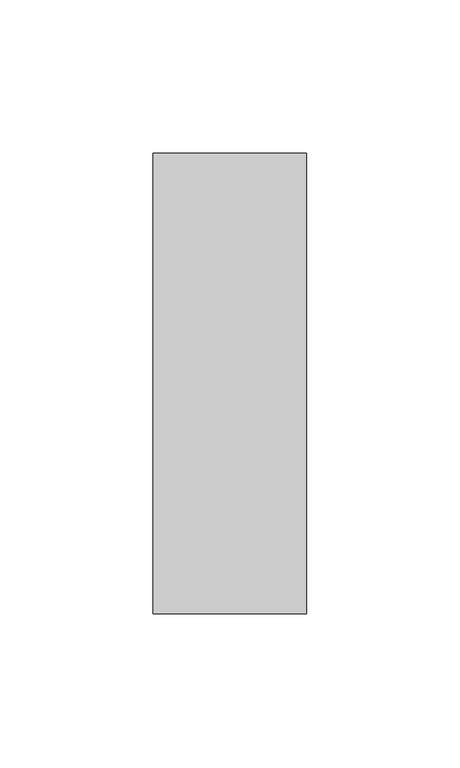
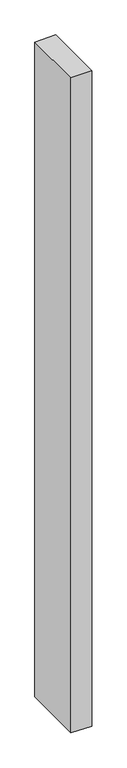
"""IFC4 building model written with IfcOpenShell, lengths in millimetres: member geometry, Прямоугольный импост : 50 x 150 мм."""

from ifc_helpers import new_model, si_unit, origin, place, context, project, spatial, faceted_brep, source, transform, mapped, element, save


def member_8134df89(model_context):
    return source(origin(), model_context, "Body", "Brep", [
        faceted_brep([(-25.0, 75.0, -0.1329139), (25.0, 75.0, 0.5187577), (25.0, 75.0, -1666.5561926), (-25.0, 75.0, -1665.9392816), (-25.0, -75.0, -0.5187577), (-25.0, -75.0, -1666.6742464), (25.0, -75.0, 0.1329139), (25.0, -75.0, -1667.2911575)], [[[0, 1, 2, 3]], [[4, 0, 3, 5]], [[6, 4, 5, 7]], [[1, 6, 7, 2]], [[1, 0, 4, 6]], [[2, 7, 5, 3]]]),
    ])


if __name__ == "__main__":
    model = new_model("IFC4")
    model_context = context("Model", 3, world=origin())
    ifc_project = project(units=[si_unit("LENGTHUNIT", "METRE", prefix="MILLI")], contexts=[model_context])
    site = spatial("IfcSite", under=ifc_project)
    building = spatial("IfcBuilding", under=site)
    placement = place(None, origin())
    member_shape = member_8134df89(model_context)
    element("IfcMember", 1, ObjectType="Прямоугольный импост : 50 x 150 мм", at=placement, inside=building, context=model_context, shape_type="MappedRepresentation", body=[
        mapped(member_shape, transform((0.0, 0.0, 0.0), x_axis=(1.0, 0.0, 0.0), y_axis=(0.0, 1.0, 0.0), z_axis=(0.0, 0.0, 1.0))),
    ])
    save(model, "model.ifc")
